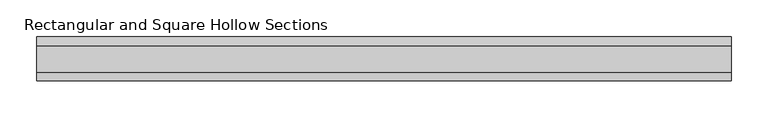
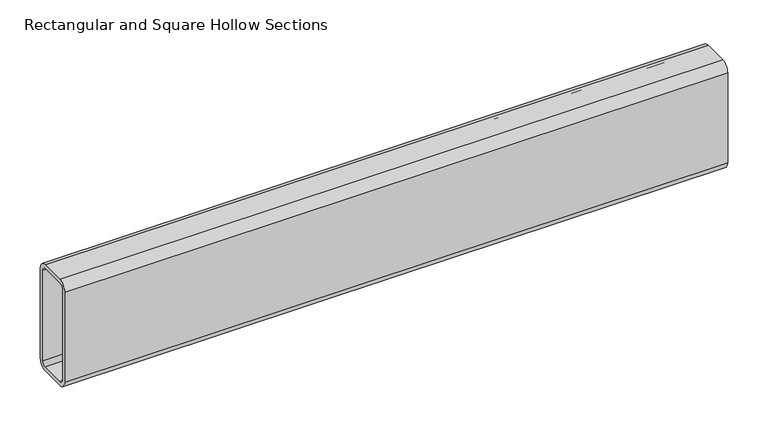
"""IFC4 building model written with IfcOpenShell, lengths in millimetres: beam geometry, Rectangular and Square Hollow Sections : TREC160x60x6."""

import ifcopenshell
import ifcopenshell.guid

model = None  # the IFC model being written
_history = None  # IfcOwnerHistory: only IFC2X3 demands one
_inside = {}  # id of a spatial element -> (the spatial element, [elements in it])
_under = {}  # id of a project, library or spatial element -> (it, [spatial elements below it])
_declared = {}  # id of a project -> (the project, [libraries it declares])
_typed = {}  # id of a type object -> (the type object, [elements of that type])
_made_of = {}  # id of a material, layer set ... -> (it, [elements and type objects made of it])


def new_model(schema):
    """Start an empty IFC model of exactly this schema.

    Asked for "IFC4X3", IfcOpenShell would pick the latest addendum, in which some entities
    have other attributes; the version numbers below select the first issue.
    IFC2X3 requires an IfcOwnerHistory on every rooted entity: one is made here for all.
    """
    global model, _history
    if schema == "IFC4X3":
        model = ifcopenshell.file(schema_version=(4, 3, 0, 0))
    else:
        model = ifcopenshell.file(schema=schema)
    _inside.clear()
    _under.clear()
    _declared.clear()
    _typed.clear()
    _made_of.clear()
    _history = None
    if model.schema == "IFC2X3":
        org = make("IfcOrganization", Name="unknown")
        user = make(
            "IfcPersonAndOrganization",
            ThePerson=make("IfcPerson", FamilyName="unknown"),
            TheOrganization=org,
        )
        app = make(
            "IfcApplication",
            ApplicationDeveloper=org,
            Version="unknown",
            ApplicationFullName="unknown",
            ApplicationIdentifier="unknown",
        )
        _history = make(
            "IfcOwnerHistory",
            OwningUser=user,
            OwningApplication=app,
            ChangeAction="ADDED",
            CreationDate=0,
        )
    return model


def make(cls, **values):
    """One entity of the class cls with the attributes given. An attribute that is None is left unset."""
    return model.create_entity(
        cls, **{name: value for name, value in values.items() if value is not None}
    )


def rooted(cls, **values):
    """An entity with a GlobalId (a new one), such as an element, a storey or a relation."""
    return make(cls, GlobalId=ifcopenshell.guid.new(), OwnerHistory=_history, **values)


def si_unit(unit_type, name, prefix=None):
    """IfcSIUnit, for example si_unit("LENGTHUNIT", "METRE", prefix="MILLI")."""
    return make("IfcSIUnit", UnitType=unit_type, Prefix=prefix, Name=name)


def assignment(units):
    """IfcUnitAssignment: the units of a project."""
    return None if units is None else make("IfcUnitAssignment", Units=units)


def point(xyz):
    """IfcCartesianPoint."""
    return None if xyz is None else make("IfcCartesianPoint", Coordinates=xyz)


def direction(xyz):
    """IfcDirection."""
    return None if xyz is None else make("IfcDirection", DirectionRatios=xyz)


def frame(location, z_axis=None, x_axis=None):
    """IfcAxis2Placement3D, a coordinate frame: its origin and axes. An axis left out is left unset."""
    return make(
        "IfcAxis2Placement3D",
        Location=point(location),
        Axis=direction(z_axis),
        RefDirection=direction(x_axis),
    )


def frame_2d(location, x_axis=None):
    """IfcAxis2Placement2D, a coordinate frame in the plane: its origin and x axis."""
    return make(
        "IfcAxis2Placement2D", Location=point(location), RefDirection=direction(x_axis)
    )


def origin():
    """The frame at (0, 0, 0) with its axes left unset."""
    return frame((0.0, 0.0, 0.0))


def place(relative_to, where):
    """IfcLocalPlacement: puts the frame where relative to a parent placement (None: the world)."""
    return make(
        "IfcLocalPlacement", PlacementRelTo=relative_to, RelativePlacement=where
    )


def context(
    kind, dimensions, precision=None, world=None, true_north=None, identifier=None
):
    """IfcGeometricRepresentationContext, for example the 3D "Model" context."""
    return make(
        "IfcGeometricRepresentationContext",
        ContextIdentifier=identifier,
        ContextType=kind,
        CoordinateSpaceDimension=dimensions,
        Precision=precision,
        WorldCoordinateSystem=world,
        TrueNorth=true_north,
    )


def project(units=None, contexts=None):
    """IfcProject with its units and contexts."""
    return rooted(
        "IfcProject",
        Name="project",
        RepresentationContexts=contexts,
        UnitsInContext=assignment(units),
    )


def spatial(cls, under=None, at=None, **own):
    """A site, building, storey or space (cls), placed at a placement, below another one or the project."""
    s = rooted(cls, ObjectPlacement=at, **own)
    if under is not None:
        _under.setdefault(under.id(), (under, []))[1].append(s)
    return s


def polyline(points):
    """IfcPolyline through the points."""
    return make("IfcPolyline", Points=[point(p) for p in points])


def circle_curve(where, radius):
    """IfcCircle in the frame where."""
    return make("IfcCircle", Position=where, Radius=radius)


def trimmed(basis, trim1, trim2, sense, master):
    """IfcTrimmedCurve: the piece of a basis curve between two trims."""
    return make(
        "IfcTrimmedCurve",
        BasisCurve=basis,
        Trim1=trim1,
        Trim2=trim2,
        SenseAgreement=sense,
        MasterRepresentation=master,
    )


def segment(curve, same_sense, transition):
    """IfcCompositeCurveSegment."""
    return make(
        "IfcCompositeCurveSegment",
        Transition=transition,
        SameSense=same_sense,
        ParentCurve=curve,
    )


def composite_curve(segments, self_intersect=None):
    """IfcCompositeCurve: segments joined end to end."""
    return make("IfcCompositeCurve", Segments=segments, SelfIntersect=self_intersect)


def outline(outer, holes=None, kind="AREA"):
    """IfcArbitraryClosedProfileDef: a profile drawn as a closed curve; with holes, ...WithVoids."""
    if holes is None:
        return make("IfcArbitraryClosedProfileDef", ProfileType=kind, OuterCurve=outer)
    return make(
        "IfcArbitraryProfileDefWithVoids",
        ProfileType=kind,
        OuterCurve=outer,
        InnerCurves=holes,
    )


def extrude(swept, where, along, depth):
    """IfcExtrudedAreaSolid: the profile swept, set in the frame where, extruded along a direction by depth."""
    return make(
        "IfcExtrudedAreaSolid",
        SweptArea=swept,
        Position=where,
        ExtrudedDirection=direction(along),
        Depth=depth,
    )


def shape(context_of_items, identifier, shape_type, items):
    """IfcShapeRepresentation: the items that make up one representation, for example the "Body"."""
    return make(
        "IfcShapeRepresentation",
        ContextOfItems=context_of_items,
        RepresentationIdentifier=identifier,
        RepresentationType=shape_type,
        Items=items,
    )


def source(mapping_origin, context_of_items, identifier, shape_type, items):
    """IfcRepresentationMap: a shape defined once, which mapped items show again and again."""
    return make(
        "IfcRepresentationMap",
        MappingOrigin=mapping_origin,
        MappedRepresentation=shape(context_of_items, identifier, shape_type, items),
    )


def transform(
    local_origin,
    x_axis=None,
    y_axis=None,
    z_axis=None,
    scale=None,
    scale2=None,
    scale3=None,
    uniform=True,
):
    """IfcCartesianTransformationOperator3D, or its non-uniform kind. x_axis, y_axis, z_axis: its Axis1, 2, 3."""
    if uniform:
        return make(
            "IfcCartesianTransformationOperator3D",
            Axis1=direction(x_axis),
            Axis2=direction(y_axis),
            LocalOrigin=point(local_origin),
            Scale=scale,
            Axis3=direction(z_axis),
        )
    return make(
        "IfcCartesianTransformationOperator3DnonUniform",
        Axis1=direction(x_axis),
        Axis2=direction(y_axis),
        LocalOrigin=point(local_origin),
        Scale=scale,
        Axis3=direction(z_axis),
        Scale2=scale2,
        Scale3=scale3,
    )


def mapped(mapping_source, mapping_target):
    """IfcMappedItem: shows the shape of a source again, moved by a transform."""
    return make(
        "IfcMappedItem", MappingSource=mapping_source, MappingTarget=mapping_target
    )


def made_of(thing, what):
    """Note that an element or type object is made of a material, layer set ...; save() writes the relation."""
    if what is not None:
        _made_of.setdefault(what.id(), (what, []))[1].append(thing)
    return thing


def element(
    cls,
    number,
    at=None,
    inside=None,
    cuts=None,
    type_object=None,
    material=None,
    context=None,
    identifier="Body",
    shape_type=None,
    held_by="IfcProductDefinitionShape",
    body=None,
    shapes=None,
    **own,
):
    """One element of the class cls, such as IfcWall. Its Tag is "e" and its number.

    at: its placement. inside: the storey or other place that contains it. cuts: it is an
    opening in that element (IfcRelVoidsElement). A single representation is given by context,
    identifier, shape_type and body (its items); several are given by shapes. held_by: the class
    of the entity that holds the representations. save() writes the other relations.
    """
    e = rooted(cls, Tag="e%d" % number, ObjectPlacement=at, **own)
    if body is not None:
        shapes = [shape(context, identifier, shape_type, body)]
    if shapes is not None:
        e.Representation = make(held_by, Representations=shapes)
    if inside is not None:
        _inside.setdefault(inside.id(), (inside, []))[1].append(e)
    if cuts is not None:
        rooted(
            "IfcRelVoidsElement", RelatingBuildingElement=cuts, RelatedOpeningElement=e
        )
    if type_object is not None:
        _typed.setdefault(type_object.id(), (type_object, []))[1].append(e)
    return made_of(e, material)


def aggregate(whole, parts):
    """IfcRelAggregates: a whole, such as a stair, and the parts it consists of."""
    return rooted("IfcRelAggregates", RelatingObject=whole, RelatedObjects=parts)


def save(model, path):
    """Write the relations noted so far, then the file.

    IfcRelAggregates (storeys below a building ...), IfcRelContainedInSpatialStructure (elements
    in a storey), IfcRelDefinesByType, IfcRelAssociatesMaterial and IfcRelDeclares: one each for
    every whole, place, type object, material and project.
    """
    for whole, parts in _under.values():
        aggregate(whole, parts)
    for where, things in _inside.values():
        rooted(
            "IfcRelContainedInSpatialStructure",
            RelatedElements=things,
            RelatingStructure=where,
        )
    for kind, things in _typed.values():
        rooted("IfcRelDefinesByType", RelatedObjects=things, RelatingType=kind)
    for what, things in _made_of.values():
        rooted("IfcRelAssociatesMaterial", RelatedObjects=things, RelatingMaterial=what)
    for by, libraries in _declared.values():
        rooted("IfcRelDeclares", RelatingContext=by, RelatedDefinitions=libraries)
    model.write(path)


def rectangular_and_square_hollow_sections_82481f7e(model_context):
    return source(origin(), model_context, "Body", "SweptSolid", [
        extrude(outline(composite_curve([segment(polyline([(30.0, 68.0), (30.0, -68.0)]), True, "CONTINUOUS"), segment(trimmed(circle_curve(frame_2d((18.0, -68.0)), 12.0), [point((30.0, -68.0))], [point((18.0, -80.0))], False, "CARTESIAN"), True, "CONTINUOUS"), segment(polyline([(18.0, -80.0), (-18.0, -80.0)]), True, "CONTINUOUS"), segment(trimmed(circle_curve(frame_2d((-18.0, -68.0)), 12.0), [point((-18.0, -80.0))], [point((-30.0, -68.0))], False, "CARTESIAN"), True, "CONTINUOUS"), segment(polyline([(-30.0, -68.0), (-30.0, 68.0)]), True, "CONTINUOUS"), segment(trimmed(circle_curve(frame_2d((-18.0, 68.0)), 12.0), [point((-30.0, 68.0))], [point((-18.0, 80.0))], False, "CARTESIAN"), True, "CONTINUOUS"), segment(polyline([(-18.0, 80.0), (18.0, 80.0)]), True, "CONTINUOUS"), segment(trimmed(circle_curve(frame_2d((18.0, 68.0)), 12.0), [point((18.0, 80.0))], [point((30.0, 68.0))], False, "CARTESIAN"), True, "CONTINUOUS")], self_intersect=False), holes=[composite_curve([segment(trimmed(circle_curve(frame_2d((-18.0, 68.0)), 6.0), [point((-18.0, 74.0))], [point((-24.0, 68.0))], True, "CARTESIAN"), True, "CONTINUOUS"), segment(polyline([(-24.0, 68.0), (-24.0, -68.0)]), True, "CONTINUOUS"), segment(trimmed(circle_curve(frame_2d((-18.0, -68.0)), 6.0), [point((-24.0, -68.0))], [point((-18.0, -74.0))], True, "CARTESIAN"), True, "CONTINUOUS"), segment(polyline([(-18.0, -74.0), (18.0, -74.0)]), True, "CONTINUOUS"), segment(trimmed(circle_curve(frame_2d((18.0, -68.0)), 6.0), [point((18.0, -74.0))], [point((24.0, -68.0))], True, "CARTESIAN"), True, "CONTINUOUS"), segment(polyline([(24.0, -68.0), (24.0, 68.0)]), True, "CONTINUOUS"), segment(trimmed(circle_curve(frame_2d((18.0, 68.0)), 6.0), [point((24.0, 68.0))], [point((18.0, 74.0))], True, "CARTESIAN"), True, "CONTINUOUS"), segment(polyline([(18.0, 74.0), (-18.0, 74.0)]), True, "CONTINUOUS")], self_intersect=False)]), frame((-496.0, 0.0, 0.0), z_axis=(1.0, 0.0, 0.0), x_axis=(0.0, 1.0, 0.0)), (0.0, 0.0, 1.0), 945.0),
    ])


if __name__ == "__main__":
    model = new_model("IFC4")
    model_context = context("Model", 3, world=origin())
    ifc_project = project(units=[si_unit("LENGTHUNIT", "METRE", prefix="MILLI")], contexts=[model_context])
    site = spatial("IfcSite", under=ifc_project)
    building = spatial("IfcBuilding", under=site)
    placement = place(None, origin())
    rectangular_and_square_hollow_sections_shape = rectangular_and_square_hollow_sections_82481f7e(model_context)
    element("IfcBeam", 1, ObjectType="Rectangular and Square Hollow Sections : TREC160x60x6", at=placement, inside=building, context=model_context, shape_type="MappedRepresentation", body=[
        mapped(rectangular_and_square_hollow_sections_shape, transform((0.0, 0.0, 0.0), x_axis=(1.0, 0.0, 0.0), y_axis=(0.0, 1.0, 0.0), z_axis=(0.0, 0.0, 1.0))),
    ])
    save(model, "model.ifc")
